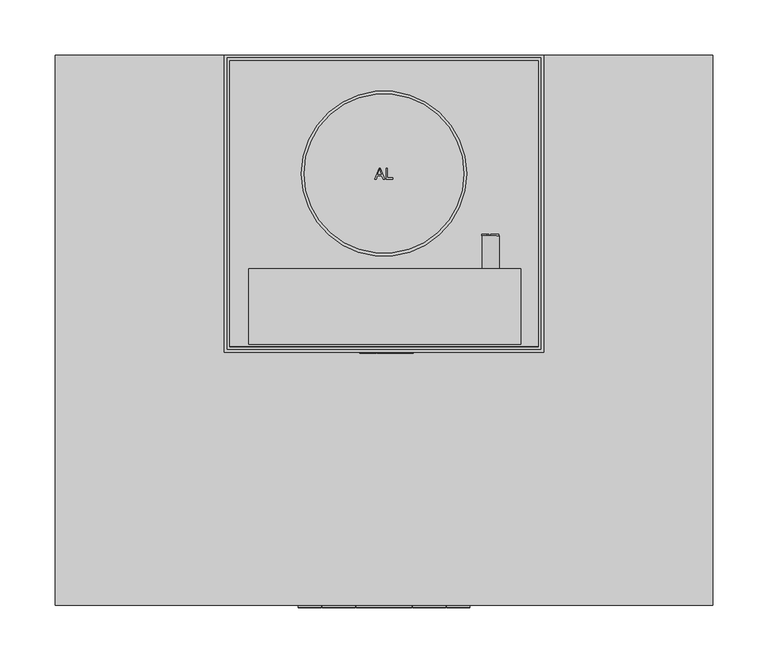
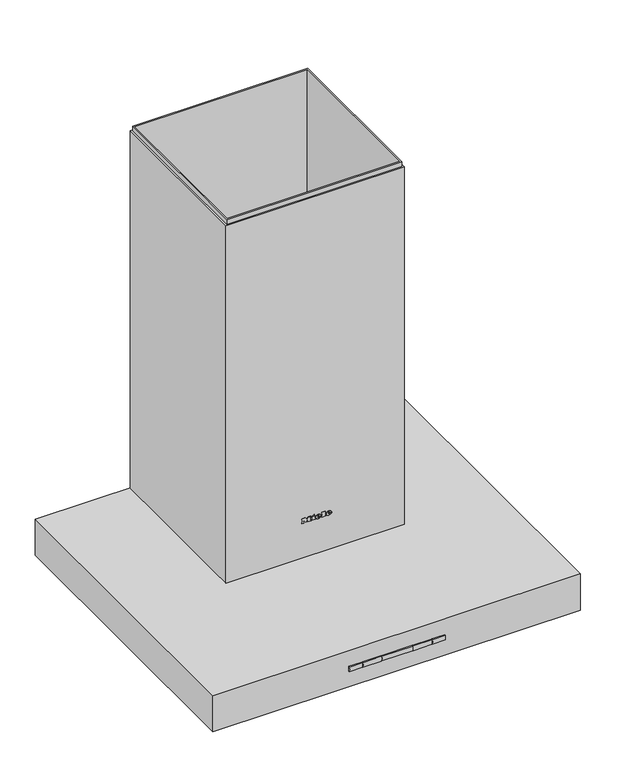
"""IFC4 building model written with IfcOpenShell, lengths in millimetres: proxy geometry, 10351360_D_PUR68W_EDST : 28416854_D_10351360_PUR68W_EDST."""

from ifc_helpers import new_model, si_unit, point, frame, frame_2d, origin, place, context, project, spatial, polyline, circle_curve, ellipse_curve, trimmed, segment, composite_curve, outline, extrude, faceted_brep, source, transform, mapped, element, save
from ifc_brep_helpers import plane_surface, cylinder_surface, revolved_surface, extruded_surface, advanced_brep


def specialty_equipment_d826a3f4(model_context):
    return source(origin(), model_context, "Body", "SolidModel", [
        advanced_brep(
        [(-146.5433287, -435.7, 0.8), (-93.4566713, -435.7, 0.8), (-90.883263, -435.7, 2.0), (-149.116737, -435.7, 2.0), (-120.0, -435.7, 0.8), (-120.0, -435.7, 2.0)],
        [
            (0, 1, circle_curve(frame((-120.0, -435.7, 0.8), z_axis=(0.0, 0.0, 1.0), x_axis=(1.0, 0.0, 0.0)), 26.5433287)),
            (1, 2),
            (2, 3, circle_curve(frame((-120.0, -435.7, 2.0), z_axis=(0.0, 0.0, -1.0), x_axis=(1.0, 0.0, 0.0)), 29.116737)),
            (3, 0),
            (1, 0, circle_curve(frame((-120.0, -435.7, 0.8), z_axis=(0.0, 0.0, 1.0), x_axis=(1.0, 0.0, 0.0)), 26.5433287)),
            (3, 2, circle_curve(frame((-120.0, -435.7, 2.0), z_axis=(0.0, 0.0, -1.0), x_axis=(1.0, 0.0, 0.0)), 29.116737)),
            (0, 4),
            (4, 1),
            (2, 5),
            (5, 3),
        ],
        [
            revolved_surface(polyline([(-90.883263, -435.7, 2.0), (-93.4566713, -435.7, 0.8)]), (-120.0, -435.7, 2240.4), (0.0, 0.0, -1.0)),
            plane_surface(frame((-120.0, -435.7, 0.8), z_axis=(0.0, 0.0, -1.0), x_axis=(1.0, 0.0, 0.0))),
            plane_surface(frame((-120.0, -435.7, 2.0), z_axis=(0.0, 0.0, 1.0), x_axis=(1.0, 0.0, 0.0))),
        ],
        [
            (0, [[1, 2, 3, 4]]),
            (0, [[-2, 5, -4, 6]]),
            (1, [[-1, 7, 8]]),
            (1, [[-5, -8, -7]]),
            (2, [[-3, 9, 10]]),
            (2, [[-6, -10, -9]]),
        ],
    ),
        advanced_brep(
        [(93.4566713, -435.7, 0.8), (146.5433287, -435.7, 0.8), (149.116737, -435.7, 2.0), (90.883263, -435.7, 2.0), (120.0, -435.7, 0.8), (120.0, -435.7, 2.0)],
        [
            (0, 1, circle_curve(frame((120.0, -435.7, 0.8), z_axis=(0.0, 0.0, 1.0), x_axis=(1.0, 0.0, 0.0)), 26.5433287)),
            (1, 2),
            (2, 3, circle_curve(frame((120.0, -435.7, 2.0), z_axis=(0.0, 0.0, -1.0), x_axis=(1.0, 0.0, 0.0)), 29.116737)),
            (3, 0),
            (1, 0, circle_curve(frame((120.0, -435.7, 0.8), z_axis=(0.0, 0.0, 1.0), x_axis=(1.0, 0.0, 0.0)), 26.5433287)),
            (3, 2, circle_curve(frame((120.0, -435.7, 2.0), z_axis=(0.0, 0.0, -1.0), x_axis=(1.0, 0.0, 0.0)), 29.116737)),
            (0, 4),
            (4, 1),
            (2, 5),
            (5, 3),
        ],
        [
            revolved_surface(polyline([(149.116737, -435.7, 2.0), (146.5433287, -435.7, 0.8)]), (120.0, -435.7, 2240.4), (0.0, 0.0, -1.0)),
            plane_surface(frame((120.0, -435.7, 0.8), z_axis=(0.0, 0.0, -1.0), x_axis=(1.0, 0.0, 0.0))),
            plane_surface(frame((120.0, -435.7, 2.0), z_axis=(0.0, 0.0, 1.0), x_axis=(1.0, 0.0, 0.0))),
        ],
        [
            (0, [[1, 2, 3, 4]]),
            (0, [[-2, 5, -4, 6]]),
            (1, [[-1, 7, 8]]),
            (1, [[-5, -8, -7]]),
            (2, [[-3, 9, 10]]),
            (2, [[-6, -10, -9]]),
        ],
    ),
        extrude(outline(polyline([(9.0, -34.0), (271.0, -34.0), (271.0, -391.0), (9.0, -391.0), (9.0, -34.0)])), frame((0.0, 0.0, 6.5), z_axis=(0.0, 0.0, 1.0), x_axis=(1.0, 0.0, 0.0)), (0.0, 0.0, 1.0), 6.0),
        extrude(outline(polyline([(0.0, -25.0), (280.0, -25.0), (280.0, -400.0), (0.0, -400.0), (0.0, -25.0)]), holes=[polyline([(9.0, -34.0), (9.0, -391.0), (271.0, -391.0), (271.0, -34.0), (9.0, -34.0)])]), frame((0.0, 0.0, 5.0), z_axis=(0.0, 0.0, 1.0), x_axis=(1.0, 0.0, 0.0)), (0.0, 0.0, 1.0), 9.0),
        extrude(outline(polyline([(-9.0, -34.0), (-9.0, -391.0), (-271.0, -391.0), (-271.0, -34.0), (-9.0, -34.0)])), frame((0.0, 0.0, 6.5), z_axis=(0.0, 0.0, 1.0), x_axis=(1.0, 0.0, 0.0)), (0.0, 0.0, 1.0), 6.0),
        extrude(outline(polyline([(0.0, -25.0), (0.0, -400.0), (-280.0, -400.0), (-280.0, -25.0), (0.0, -25.0)]), holes=[polyline([(-9.0, -34.0), (-271.0, -34.0), (-271.0, -391.0), (-9.0, -391.0), (-9.0, -34.0)])]), frame((0.0, 0.0, 5.0), z_axis=(0.0, 0.0, 1.0), x_axis=(1.0, 0.0, 0.0)), (0.0, 0.0, 1.0), 9.0),
        extrude(outline(polyline([(123.5, -348.0), (156.5, -348.0), (156.5, -391.0), (123.5, -391.0), (123.5, -348.0)]), holes=[polyline([(130.0, -354.5), (130.0, -363.5), (149.7714328, -363.5), (149.7714328, -354.5), (130.0, -354.5)])]), frame((0.0, 0.0, 5.0), z_axis=(0.0, 0.0, 1.0), x_axis=(1.0, 0.0, 0.0)), (0.0, 0.0, 1.0), 1.5),
        extrude(outline(polyline([(-123.5, -348.0), (-123.5, -391.0), (-156.5, -391.0), (-156.5, -348.0), (-123.5, -348.0)]), holes=[polyline([(-130.0, -354.5), (-150.0, -354.5), (-150.0, -363.5), (-130.0, -363.5), (-130.0, -354.5)])]), frame((0.0, 0.0, 5.0), z_axis=(0.0, 0.0, 1.0), x_axis=(1.0, 0.0, 0.0)), (0.0, 0.0, 1.0), 1.5),
        faceted_brep([(-142.5, -267.5, 685.0), (142.5, -267.5, 685.0), (142.5, -2.5, 685.0), (-142.5, -2.5, 685.0), (140.0, -5.0, 685.0), (140.0, -265.0, 685.0), (-140.0, -265.0, 685.0), (-140.0, -5.0, 685.0), (-142.5, -267.5, 210.0), (-142.5, -2.5, 210.0), (142.5, -2.5, 210.0), (142.5, -267.5, 210.0), (140.0, -5.0, 210.0), (-140.0, -5.0, 210.0), (-140.0, -265.0, 210.0), (140.0, -265.0, 210.0), (-142.5, -247.0, 245.0), (-142.5, -236.4, 245.0), (-142.5, -236.4, 345.0), (-142.5, -247.0, 345.0), (-142.5, -225.8, 245.0), (-142.5, -215.2, 245.0), (-142.5, -215.2, 345.0), (-142.5, -225.8, 345.0), (-142.5, -204.6, 245.0), (-142.5, -194.0, 245.0), (-142.5, -194.0, 345.0), (-142.5, -204.6, 345.0), (-142.5, -183.4, 245.0), (-142.5, -172.8, 245.0), (-142.5, -172.8, 345.0), (-142.5, -183.4, 345.0), (-142.5, -162.2, 245.0), (-142.5, -151.6, 245.0), (-142.5, -151.6, 345.0), (-142.5, -162.2, 345.0), (-142.5, -141.0, 245.0), (-142.5, -129.0, 245.0), (-142.5, -129.0, 345.0), (-142.5, -141.0, 345.0), (-142.5, -118.4, 245.0), (-142.5, -107.8, 245.0), (-142.5, -107.8, 345.0), (-142.5, -118.4, 345.0), (-142.5, -97.2, 245.0), (-142.5, -86.6, 245.0), (-142.5, -86.6, 345.0), (-142.5, -97.2, 345.0), (-142.5, -76.0, 245.0), (-142.5, -65.4, 245.0), (-142.5, -65.4, 345.0), (-142.5, -76.0, 345.0), (-142.5, -54.8, 245.0), (-142.5, -44.2, 245.0), (-142.5, -44.2, 345.0), (-142.5, -54.8, 345.0), (-142.5, -33.6, 245.0), (-142.5, -23.0, 245.0), (-142.5, -23.0, 345.0), (-142.5, -33.6, 345.0), (121.0, -265.0, 245.0), (121.0, -265.0, 345.0), (109.0, -265.0, 345.0), (109.0, -265.0, 245.0), (-121.0, -265.0, 345.0), (-121.0, -265.0, 245.0), (-109.0, -265.0, 245.0), (-109.0, -265.0, 345.0), (-86.0, -265.0, 345.0), (-97.5, -265.0, 345.0), (-97.5, -265.0, 245.0), (-86.0, -265.0, 245.0), (-63.0, -265.0, 345.0), (-74.5, -265.0, 345.0), (-74.5, -265.0, 245.0), (-63.0, -265.0, 245.0), (-40.0, -265.0, 345.0), (-51.5, -265.0, 345.0), (-51.5, -265.0, 245.0), (-40.0, -265.0, 245.0), (-17.0, -265.0, 345.0), (-28.5, -265.0, 345.0), (-28.5, -265.0, 245.0), (-17.0, -265.0, 245.0), (5.5, -265.0, 345.0), (-5.5, -265.0, 345.0), (-5.5, -265.0, 245.0), (5.5, -265.0, 245.0), (28.5, -265.0, 345.0), (17.0, -265.0, 345.0), (17.0, -265.0, 245.0), (28.5, -265.0, 245.0), (51.5, -265.0, 345.0), (40.0, -265.0, 345.0), (40.0, -265.0, 245.0), (51.5, -265.0, 245.0), (74.5, -265.0, 345.0), (63.0, -265.0, 345.0), (63.0, -265.0, 245.0), (74.5, -265.0, 245.0), (97.5, -265.0, 345.0), (86.0, -265.0, 345.0), (86.0, -265.0, 245.0), (97.5, -265.0, 245.0), (-140.0, -236.4, 245.0), (-140.0, -247.0, 245.0), (-140.0, -247.0, 345.0), (-140.0, -236.4, 345.0), (-140.0, -215.2, 245.0), (-140.0, -225.8, 245.0), (-140.0, -225.8, 345.0), (-140.0, -215.2, 345.0), (-140.0, -194.0, 245.0), (-140.0, -204.6, 245.0), (-140.0, -204.6, 345.0), (-140.0, -194.0, 345.0), (-140.0, -172.8, 245.0), (-140.0, -183.4, 245.0), (-140.0, -183.4, 345.0), (-140.0, -172.8, 345.0), (-140.0, -151.6, 245.0), (-140.0, -162.2, 245.0), (-140.0, -162.2, 345.0), (-140.0, -151.6, 345.0), (-140.0, -129.0, 245.0), (-140.0, -141.0, 245.0), (-140.0, -141.0, 345.0), (-140.0, -129.0, 345.0), (-140.0, -107.8, 245.0), (-140.0, -118.4, 245.0), (-140.0, -118.4, 345.0), (-140.0, -107.8, 345.0), (-140.0, -86.6, 245.0), (-140.0, -97.2, 245.0), (-140.0, -97.2, 345.0), (-140.0, -86.6, 345.0), (-140.0, -65.4, 245.0), (-140.0, -76.0, 245.0), (-140.0, -76.0, 345.0), (-140.0, -65.4, 345.0), (-140.0, -44.2, 245.0), (-140.0, -54.8, 245.0), (-140.0, -54.8, 345.0), (-140.0, -44.2, 345.0), (-140.0, -23.0, 245.0), (-140.0, -33.6, 245.0), (-140.0, -33.6, 345.0), (-140.0, -23.0, 345.0), (140.0, -247.0, 345.0), (140.0, -247.0, 245.0), (140.0, -236.4, 245.0), (140.0, -236.4, 345.0), (140.0, -23.0, 245.0), (140.0, -23.0, 345.0), (140.0, -33.6, 345.0), (140.0, -33.6, 245.0), (140.0, -225.8, 345.0), (140.0, -225.8, 245.0), (140.0, -215.2, 245.0), (140.0, -215.2, 345.0), (140.0, -204.6, 345.0), (140.0, -204.6, 245.0), (140.0, -194.0, 245.0), (140.0, -194.0, 345.0), (140.0, -183.4, 345.0), (140.0, -183.4, 245.0), (140.0, -172.8, 245.0), (140.0, -172.8, 345.0), (140.0, -162.2, 345.0), (140.0, -162.2, 245.0), (140.0, -151.6, 245.0), (140.0, -151.6, 345.0), (140.0, -44.2, 245.0), (140.0, -44.2, 345.0), (140.0, -54.8, 345.0), (140.0, -54.8, 245.0), (140.0, -65.4, 245.0), (140.0, -65.4, 345.0), (140.0, -76.0, 345.0), (140.0, -76.0, 245.0), (140.0, -86.6, 245.0), (140.0, -86.6, 345.0), (140.0, -97.2, 345.0), (140.0, -97.2, 245.0), (140.0, -107.8, 245.0), (140.0, -107.8, 345.0), (140.0, -118.4, 345.0), (140.0, -118.4, 245.0), (140.0, -129.0, 245.0), (140.0, -129.0, 345.0), (140.0, -141.0, 345.0), (140.0, -141.0, 245.0), (142.5, -23.0, 345.0), (142.5, -23.0, 245.0), (142.5, -33.6, 245.0), (142.5, -33.6, 345.0), (142.5, -247.0, 245.0), (142.5, -247.0, 345.0), (142.5, -236.4, 345.0), (142.5, -236.4, 245.0), (142.5, -225.8, 245.0), (142.5, -225.8, 345.0), (142.5, -215.2, 345.0), (142.5, -215.2, 245.0), (142.5, -204.6, 245.0), (142.5, -204.6, 345.0), (142.5, -194.0, 345.0), (142.5, -194.0, 245.0), (142.5, -183.4, 245.0), (142.5, -183.4, 345.0), (142.5, -172.8, 345.0), (142.5, -172.8, 245.0), (142.5, -162.2, 245.0), (142.5, -162.2, 345.0), (142.5, -151.6, 345.0), (142.5, -151.6, 245.0), (142.5, -44.2, 345.0), (142.5, -44.2, 245.0), (142.5, -54.8, 245.0), (142.5, -54.8, 345.0), (142.5, -65.4, 345.0), (142.5, -65.4, 245.0), (142.5, -76.0, 245.0), (142.5, -76.0, 345.0), (142.5, -86.6, 345.0), (142.5, -86.6, 245.0), (142.5, -97.2, 245.0), (142.5, -97.2, 345.0), (142.5, -107.8, 345.0), (142.5, -107.8, 245.0), (142.5, -118.4, 245.0), (142.5, -118.4, 345.0), (142.5, -129.0, 345.0), (142.5, -129.0, 245.0), (142.5, -141.0, 245.0), (142.5, -141.0, 345.0), (121.0, -267.5, 345.0), (121.0, -267.5, 245.0), (109.0, -267.5, 245.0), (109.0, -267.5, 345.0), (-121.0, -267.5, 245.0), (-121.0, -267.5, 345.0), (-109.0, -267.5, 345.0), (-109.0, -267.5, 245.0), (-97.5, -267.5, 345.0), (-86.0, -267.5, 345.0), (-86.0, -267.5, 245.0), (-97.5, -267.5, 245.0), (-74.5, -267.5, 345.0), (-63.0, -267.5, 345.0), (-63.0, -267.5, 245.0), (-74.5, -267.5, 245.0), (-51.5, -267.5, 345.0), (-40.0, -267.5, 345.0), (-40.0, -267.5, 245.0), (-51.5, -267.5, 245.0), (-28.5, -267.5, 345.0), (-17.0, -267.5, 345.0), (-17.0, -267.5, 245.0), (-28.5, -267.5, 245.0), (-5.5, -267.5, 345.0), (5.5, -267.5, 345.0), (5.5, -267.5, 245.0), (-5.5, -267.5, 245.0), (17.0, -267.5, 345.0), (28.5, -267.5, 345.0), (28.5, -267.5, 245.0), (17.0, -267.5, 245.0), (40.0, -267.5, 345.0), (51.5, -267.5, 345.0), (51.5, -267.5, 245.0), (40.0, -267.5, 245.0), (63.0, -267.5, 345.0), (74.5, -267.5, 345.0), (74.5, -267.5, 245.0), (63.0, -267.5, 245.0), (86.0, -267.5, 345.0), (97.5, -267.5, 345.0), (97.5, -267.5, 245.0), (86.0, -267.5, 245.0)], [[[0, 1, 2, 3], [4, 5, 6, 7]], [[8, 9, 10, 11], [12, 13, 14, 15]], [[0, 3, 9, 8], [16, 17, 18, 19], [20, 21, 22, 23], [24, 25, 26, 27], [28, 29, 30, 31], [32, 33, 34, 35], [36, 37, 38, 39], [40, 41, 42, 43], [44, 45, 46, 47], [48, 49, 50, 51], [52, 53, 54, 55], [56, 57, 58, 59]], [[6, 5, 15, 14], [60, 61, 62, 63], [64, 65, 66, 67], [68, 69, 70, 71], [72, 73, 74, 75], [76, 77, 78, 79], [80, 81, 82, 83], [84, 85, 86, 87], [88, 89, 90, 91], [92, 93, 94, 95], [96, 97, 98, 99], [100, 101, 102, 103]], [[7, 6, 14, 13], [104, 105, 106, 107], [108, 109, 110, 111], [112, 113, 114, 115], [116, 117, 118, 119], [120, 121, 122, 123], [124, 125, 126, 127], [128, 129, 130, 131], [132, 133, 134, 135], [136, 137, 138, 139], [140, 141, 142, 143], [144, 145, 146, 147]], [[5, 4, 12, 15], [148, 149, 150, 151], [152, 153, 154, 155], [156, 157, 158, 159], [160, 161, 162, 163], [164, 165, 166, 167], [168, 169, 170, 171], [172, 173, 174, 175], [176, 177, 178, 179], [180, 181, 182, 183], [184, 185, 186, 187], [188, 189, 190, 191]], [[2, 1, 11, 10], [192, 193, 194, 195], [196, 197, 198, 199], [200, 201, 202, 203], [204, 205, 206, 207], [208, 209, 210, 211], [212, 213, 214, 215], [216, 217, 218, 219], [220, 221, 222, 223], [224, 225, 226, 227], [228, 229, 230, 231], [232, 233, 234, 235]], [[1, 0, 8, 11], [236, 237, 238, 239], [240, 241, 242, 243], [244, 245, 246, 247], [248, 249, 250, 251], [252, 253, 254, 255], [256, 257, 258, 259], [260, 261, 262, 263], [264, 265, 266, 267], [268, 269, 270, 271], [272, 273, 274, 275], [276, 277, 278, 279]], [[3, 2, 10, 9]], [[4, 7, 13, 12]], [[60, 237, 236, 61]], [[64, 241, 240, 65]], [[196, 149, 148, 197]], [[192, 153, 152, 193]], [[149, 196, 199, 150]], [[150, 199, 198, 151]], [[197, 148, 151, 198]], [[153, 192, 195, 154]], [[154, 195, 194, 155]], [[193, 152, 155, 194]], [[200, 157, 156, 201]], [[157, 200, 203, 158]], [[158, 203, 202, 159]], [[201, 156, 159, 202]], [[204, 161, 160, 205]], [[161, 204, 207, 162]], [[162, 207, 206, 163]], [[205, 160, 163, 206]], [[208, 165, 164, 209]], [[165, 208, 211, 166]], [[166, 211, 210, 167]], [[209, 164, 167, 210]], [[212, 169, 168, 213]], [[169, 212, 215, 170]], [[170, 215, 214, 171]], [[213, 168, 171, 214]], [[216, 173, 172, 217]], [[173, 216, 219, 174]], [[174, 219, 218, 175]], [[217, 172, 175, 218]], [[220, 177, 176, 221]], [[177, 220, 223, 178]], [[178, 223, 222, 179]], [[221, 176, 179, 222]], [[224, 181, 180, 225]], [[181, 224, 227, 182]], [[182, 227, 226, 183]], [[225, 180, 183, 226]], [[228, 185, 184, 229]], [[185, 228, 231, 186]], [[186, 231, 230, 187]], [[229, 184, 187, 230]], [[232, 189, 188, 233]], [[189, 232, 235, 190]], [[190, 235, 234, 191]], [[233, 188, 191, 234]], [[104, 17, 16, 105]], [[17, 104, 107, 18]], [[18, 107, 106, 19]], [[105, 16, 19, 106]], [[108, 21, 20, 109]], [[21, 108, 111, 22]], [[22, 111, 110, 23]], [[109, 20, 23, 110]], [[112, 25, 24, 113]], [[25, 112, 115, 26]], [[26, 115, 114, 27]], [[113, 24, 27, 114]], [[116, 29, 28, 117]], [[29, 116, 119, 30]], [[30, 119, 118, 31]], [[117, 28, 31, 118]], [[120, 33, 32, 121]], [[33, 120, 123, 34]], [[34, 123, 122, 35]], [[121, 32, 35, 122]], [[124, 37, 36, 125]], [[37, 124, 127, 38]], [[38, 127, 126, 39]], [[125, 36, 39, 126]], [[128, 41, 40, 129]], [[41, 128, 131, 42]], [[42, 131, 130, 43]], [[129, 40, 43, 130]], [[132, 45, 44, 133]], [[45, 132, 135, 46]], [[46, 135, 134, 47]], [[133, 44, 47, 134]], [[136, 49, 48, 137]], [[49, 136, 139, 50]], [[50, 139, 138, 51]], [[137, 48, 51, 138]], [[140, 53, 52, 141]], [[53, 140, 143, 54]], [[54, 143, 142, 55]], [[141, 52, 55, 142]], [[144, 57, 56, 145]], [[57, 144, 147, 58]], [[58, 147, 146, 59]], [[145, 56, 59, 146]], [[241, 64, 67, 242]], [[242, 67, 66, 243]], [[65, 240, 243, 66]], [[237, 60, 63, 238]], [[238, 63, 62, 239]], [[61, 236, 239, 62]], [[68, 245, 244, 69]], [[245, 68, 71, 246]], [[246, 71, 70, 247]], [[69, 244, 247, 70]], [[72, 249, 248, 73]], [[249, 72, 75, 250]], [[250, 75, 74, 251]], [[73, 248, 251, 74]], [[76, 253, 252, 77]], [[253, 76, 79, 254]], [[254, 79, 78, 255]], [[77, 252, 255, 78]], [[80, 257, 256, 81]], [[257, 80, 83, 258]], [[258, 83, 82, 259]], [[81, 256, 259, 82]], [[84, 261, 260, 85]], [[261, 84, 87, 262]], [[262, 87, 86, 263]], [[85, 260, 263, 86]], [[88, 265, 264, 89]], [[265, 88, 91, 266]], [[266, 91, 90, 267]], [[89, 264, 267, 90]], [[92, 269, 268, 93]], [[269, 92, 95, 270]], [[270, 95, 94, 271]], [[93, 268, 271, 94]], [[96, 273, 272, 97]], [[273, 96, 99, 274]], [[274, 99, 98, 275]], [[97, 272, 275, 98]], [[100, 277, 276, 101]], [[277, 100, 103, 278]], [[278, 103, 102, 279]], [[101, 276, 279, 102]]]),
        extrude(outline(polyline([(145.0, 0.0), (145.0, -270.0), (-145.0, -270.0), (-145.0, 0.0), (145.0, 0.0)]), holes=[polyline([(-142.5, -2.5), (-142.5, -267.5), (142.5, -267.5), (142.5, -2.5), (-142.5, -2.5)])]), frame((0.0, 0.0, 62.0), z_axis=(0.0, 0.0, 1.0), x_axis=(1.0, 0.0, 0.0)), (0.0, 0.0, 1.0), 615.0),
        advanced_brep(
        [(21.104, -271.0, 123.896), (21.104, -271.0, 124.704), (26.456, -271.0, 124.704), (17.144, -271.0, 124.704), (19.344, -271.0, 122.0), (26.32, -271.0, 123.896), (23.904, -271.0, 123.896), (22.0, -271.0, 123.0), (21.104, -271.0, 125.728), (21.104, -271.0, 126.6), (22.472, -271.0, 126.6), (22.472, -271.0, 125.728), (21.104, -270.0, 123.896), (22.0, -270.0, 123.0), (23.904, -270.0, 123.896), (26.32, -270.0, 123.896), (19.344, -270.0, 122.0), (17.144, -270.0, 124.704), (26.456, -270.0, 124.704), (21.104, -270.0, 124.704), (21.104, -270.0, 125.728), (22.472, -270.0, 125.728), (22.472, -270.0, 126.6), (21.104, -270.0, 126.6)],
        [
            (0, 1),
            (1, 2),
            (2, 3, ellipse_curve(frame((21.8, -271.0, 124.704), z_axis=(0.0, -1.0, -1.2192856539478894e-11), x_axis=(-1.0, 0.0, 0.0)), 4.656, 3.848)),
            (3, 4, circle_curve(frame((20.2400436, -271.0, 124.976), z_axis=(0.0, -1.0, -1.2192856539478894e-11), x_axis=(0.0, 1.2192856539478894e-11, -1.0)), 3.1079688)),
            (4, 5, circle_curve(frame((21.7067936, -271.0, 127.088), z_axis=(0.0, -1.0, -1.2192856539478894e-11), x_axis=(0.0, 1.2192856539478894e-11, -1.0)), 5.6098607)),
            (5, 6),
            (6, 7, circle_curve(frame((22.3910588, -271.0, 124.64), z_axis=(0.0, 1.0, 1.2192856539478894e-11), x_axis=(0.0, 1.2192856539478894e-11, -1.0)), 1.6859795)),
            (7, 0, circle_curve(frame((22.0, -271.0, 123.896), z_axis=(0.0, 1.0, 1.2192856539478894e-11), x_axis=(0.0, 1.2192856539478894e-11, -1.0)), 0.896)),
            (8, 9),
            (9, 10, circle_curve(frame((21.788, -271.0, 126.6), z_axis=(0.0, 1.0, 1.2192856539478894e-11), x_axis=(0.0, 1.2192856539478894e-11, -1.0)), 0.684)),
            (10, 11),
            (11, 8),
            (12, 13, circle_curve(frame((22.0, -270.0, 123.896), z_axis=(0.0, -1.0, -1.2192856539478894e-11), x_axis=(0.0, 1.2192856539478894e-11, -1.0)), 0.896)),
            (13, 14, circle_curve(frame((22.3910588, -270.0, 124.64), z_axis=(0.0, -1.0, -1.2192856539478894e-11), x_axis=(0.0, 1.2192856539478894e-11, -1.0)), 1.6859795)),
            (14, 15),
            (15, 16, circle_curve(frame((21.7067936, -270.0, 127.088), z_axis=(0.0, 1.0, 1.2192856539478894e-11), x_axis=(0.0, 1.2192856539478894e-11, -1.0)), 5.6098607)),
            (16, 17, circle_curve(frame((20.2400436, -270.0, 124.976), z_axis=(0.0, 1.0, 1.2192856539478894e-11), x_axis=(0.0, 1.2192856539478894e-11, -1.0)), 3.1079688)),
            (17, 18, ellipse_curve(frame((21.8, -270.0, 124.704), z_axis=(0.0, 1.0, 1.2192856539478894e-11), x_axis=(-1.0, 0.0, 0.0)), 4.656, 3.848)),
            (18, 19),
            (19, 12),
            (20, 21),
            (21, 22),
            (22, 23, circle_curve(frame((21.788, -270.0, 126.6), z_axis=(0.0, -1.0, -1.2192856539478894e-11), x_axis=(0.0, 1.2192856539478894e-11, -1.0)), 0.684)),
            (23, 20),
            (0, 12),
            (19, 1),
            (18, 2),
            (5, 15),
            (14, 6),
            (17, 3),
            (13, 7),
            (16, 4),
            (8, 20),
            (23, 9),
            (22, 10),
            (21, 11),
        ],
        [
            plane_surface(frame((21.104, -271.0, 124.704), z_axis=(0.0, -1.0, -1.2192856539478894e-11), x_axis=(0.0, -1.2192856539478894e-11, 1.0))),
            plane_surface(frame((21.104, -270.0, 124.704), z_axis=(0.0, 1.0, 1.2192856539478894e-11), x_axis=(0.0, 1.2192856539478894e-11, -1.0))),
            plane_surface(frame((21.104, -271.0, 123.896), z_axis=(1.0, 0.0, 0.0), x_axis=(0.0, 1.0, 1.2192856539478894e-11))),
            plane_surface(frame((21.104, -271.0, 124.704), z_axis=(0.0, 1.2192856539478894e-11, -1.0), x_axis=(0.0, 1.0, 1.2192856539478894e-11))),
            plane_surface(frame((26.32, -271.0, 123.896), z_axis=(0.0, -1.2192856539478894e-11, 1.0), x_axis=(0.0, 1.0, 1.2192856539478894e-11))),
            extruded_surface(trimmed(ellipse_curve(frame((21.8, -269.0, 124.704), z_axis=(0.0, -1.0, -1.2192856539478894e-11), x_axis=(-1.0, 0.0, 0.0)), 4.656, 3.848), [point((26.456, -269.0, 124.704))], [point((17.144, -269.0, 124.704))], True, "CARTESIAN"), (0.0, -1.0, 0.0), 1.0),
            revolved_surface(polyline([(22.3910588, -269.9999999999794, 122.9540205), (22.3910588, -270.99999999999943, 122.9540204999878)]), (22.3910588, -270.0, 124.64), (0.0, 1.0, 1.2192856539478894e-11)),
            revolved_surface(polyline([(22.0, -269.9999999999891, 123.0), (22.0, -271.0, 122.9999999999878)]), (22.0, -270.0, 123.896), (0.0, 1.0, 1.2192856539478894e-11)),
            cylinder_surface(frame((20.2400436, -270.0, 124.976), z_axis=(0.0, -1.0, -1.2192856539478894e-11), x_axis=(0.0, 1.2192856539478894e-11, -1.0)), 3.1079688),
            cylinder_surface(frame((21.7067936, -270.0, 127.088), z_axis=(0.0, -1.0, -1.2192856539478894e-11), x_axis=(0.0, 1.2192856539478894e-11, -1.0)), 5.6098607),
            plane_surface(frame((21.104, -271.0, 125.728), z_axis=(1.0, 0.0, 0.0), x_axis=(0.0, 1.0, 1.2192856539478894e-11))),
            revolved_surface(polyline([(21.788, -269.99999999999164, 125.916), (21.788, -270.99999999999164, 125.9159999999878)]), (21.788, -270.0, 126.6), (0.0, 1.0, 1.2192856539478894e-11)),
            plane_surface(frame((22.472, -271.0, 126.6), z_axis=(-1.0, 0.0, 0.0), x_axis=(0.0, 1.0, 1.2192856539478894e-11))),
            plane_surface(frame((22.472, -271.0, 125.728), z_axis=(0.0, -1.2192856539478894e-11, 1.0), x_axis=(0.0, 1.0, 1.2192856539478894e-11))),
        ],
        [
            (0, [[1, 2, 3, 4, 5, 6, 7, 8], [9, 10, 11, 12]]),
            (1, [[13, 14, 15, 16, 17, 18, 19, 20], [21, 22, 23, 24]]),
            (2, [[-1, 25, -20, 26]]),
            (3, [[-2, -26, -19, 27]]),
            (4, [[-6, 28, -15, 29]]),
            (5, [[-3, -27, -18, 30]]),
            (6, [[-7, -29, -14, 31]]),
            (7, [[-8, -31, -13, -25]]),
            (8, [[-4, -30, -17, 32]]),
            (9, [[-5, -32, -16, -28]]),
            (10, [[-9, 33, -24, 34]]),
            (11, [[-10, -34, -23, 35]]),
            (12, [[-11, -35, -22, 36]]),
            (13, [[-12, -36, -21, -33]]),
        ],
    ),
        advanced_brep(
        [(4.408, -271.0, 123.896), (4.408, -271.0, 124.704), (9.76, -271.0, 124.704), (0.448, -271.0, 124.704), (2.648, -271.0, 122.0), (9.624, -271.0, 123.896), (7.208, -271.0, 123.896), (5.304, -271.0, 123.0), (4.408, -271.0, 125.728), (4.408, -271.0, 126.6), (5.776, -271.0, 126.6), (5.776, -271.0, 125.728), (4.408, -270.0, 123.896), (5.304, -270.0, 123.0), (7.208, -270.0, 123.896), (9.624, -270.0, 123.896), (2.648, -270.0, 122.0), (0.448, -270.0, 124.704), (9.76, -270.0, 124.704), (4.408, -270.0, 124.704), (4.408, -270.0, 125.728), (5.776, -270.0, 125.728), (5.776, -270.0, 126.6), (4.408, -270.0, 126.6)],
        [
            (0, 1),
            (1, 2),
            (2, 3, ellipse_curve(frame((5.104, -271.0, 124.704), z_axis=(0.0, -1.0, -1.2192856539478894e-11), x_axis=(-1.0, 0.0, 0.0)), 4.656, 3.848)),
            (3, 4, circle_curve(frame((3.5440436, -271.0, 124.976), z_axis=(0.0, -1.0, -1.2192856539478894e-11), x_axis=(0.0, 1.2192856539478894e-11, -1.0)), 3.1079688)),
            (4, 5, circle_curve(frame((5.0107936, -271.0, 127.088), z_axis=(0.0, -1.0, -1.2192856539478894e-11), x_axis=(0.0, 1.2192856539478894e-11, -1.0)), 5.6098607)),
            (5, 6),
            (6, 7, circle_curve(frame((5.6950588, -271.0, 124.64), z_axis=(0.0, 1.0, 1.2192856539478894e-11), x_axis=(0.0, 1.2192856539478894e-11, -1.0)), 1.6859795)),
            (7, 0, circle_curve(frame((5.304, -271.0, 123.896), z_axis=(0.0, 1.0, 1.2192856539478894e-11), x_axis=(0.0, 1.2192856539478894e-11, -1.0)), 0.896)),
            (8, 9),
            (9, 10, circle_curve(frame((5.092, -271.0, 126.6), z_axis=(0.0, 1.0, 1.2192856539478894e-11), x_axis=(0.0, 1.2192856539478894e-11, -1.0)), 0.684)),
            (10, 11),
            (11, 8),
            (12, 13, circle_curve(frame((5.304, -270.0, 123.896), z_axis=(0.0, -1.0, -1.2192856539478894e-11), x_axis=(0.0, 1.2192856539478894e-11, -1.0)), 0.896)),
            (13, 14, circle_curve(frame((5.6950588, -270.0, 124.64), z_axis=(0.0, -1.0, -1.2192856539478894e-11), x_axis=(0.0, 1.2192856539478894e-11, -1.0)), 1.6859795)),
            (14, 15),
            (15, 16, circle_curve(frame((5.0107936, -270.0, 127.088), z_axis=(0.0, 1.0, 1.2192856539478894e-11), x_axis=(0.0, 1.2192856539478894e-11, -1.0)), 5.6098607)),
            (16, 17, circle_curve(frame((3.5440436, -270.0, 124.976), z_axis=(0.0, 1.0, 1.2192856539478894e-11), x_axis=(0.0, 1.2192856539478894e-11, -1.0)), 3.1079688)),
            (17, 18, ellipse_curve(frame((5.104, -270.0, 124.704), z_axis=(0.0, 1.0, 1.2192856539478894e-11), x_axis=(-1.0, 0.0, 0.0)), 4.656, 3.848)),
            (18, 19),
            (19, 12),
            (20, 21),
            (21, 22),
            (22, 23, circle_curve(frame((5.092, -270.0, 126.6), z_axis=(0.0, -1.0, -1.2192856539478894e-11), x_axis=(0.0, 1.2192856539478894e-11, -1.0)), 0.684)),
            (23, 20),
            (0, 12),
            (19, 1),
            (18, 2),
            (5, 15),
            (14, 6),
            (17, 3),
            (13, 7),
            (16, 4),
            (8, 20),
            (23, 9),
            (22, 10),
            (21, 11),
        ],
        [
            plane_surface(frame((4.408, -271.0, 124.704), z_axis=(0.0, -1.0, -1.2192856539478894e-11), x_axis=(0.0, -1.2192856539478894e-11, 1.0))),
            plane_surface(frame((4.408, -270.0, 124.704), z_axis=(0.0, 1.0, 1.2192856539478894e-11), x_axis=(0.0, 1.2192856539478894e-11, -1.0))),
            plane_surface(frame((4.408, -271.0, 123.896), z_axis=(1.0, 0.0, 0.0), x_axis=(0.0, 1.0, 1.2192856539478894e-11))),
            plane_surface(frame((4.408, -271.0, 124.704), z_axis=(0.0, 1.2192856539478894e-11, -1.0), x_axis=(0.0, 1.0, 1.2192856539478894e-11))),
            plane_surface(frame((9.624, -271.0, 123.896), z_axis=(0.0, -1.2192856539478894e-11, 1.0), x_axis=(0.0, 1.0, 1.2192856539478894e-11))),
            extruded_surface(trimmed(ellipse_curve(frame((5.104, -269.0, 124.704), z_axis=(0.0, -1.0, -1.2192856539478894e-11), x_axis=(-1.0, 0.0, 0.0)), 4.656, 3.848), [point((9.76, -269.0, 124.704))], [point((0.448, -269.0, 124.704))], True, "CARTESIAN"), (0.0, -1.0, 0.0), 1.0),
            revolved_surface(polyline([(5.6950588, -269.9999999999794, 122.9540205), (5.6950588, -270.99999999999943, 122.9540204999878)]), (5.6950588, -270.0, 124.64), (0.0, 1.0, 1.2192856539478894e-11)),
            revolved_surface(polyline([(5.304, -269.9999999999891, 123.0), (5.304, -271.0, 122.9999999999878)]), (5.304, -270.0, 123.896), (0.0, 1.0, 1.2192856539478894e-11)),
            cylinder_surface(frame((3.5440436, -270.0, 124.976), z_axis=(0.0, -1.0, -1.2192856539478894e-11), x_axis=(0.0, 1.2192856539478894e-11, -1.0)), 3.1079688),
            cylinder_surface(frame((5.0107936, -270.0, 127.088), z_axis=(0.0, -1.0, -1.2192856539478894e-11), x_axis=(0.0, 1.2192856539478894e-11, -1.0)), 5.6098607),
            plane_surface(frame((4.408, -271.0, 125.728), z_axis=(1.0, 0.0, 0.0), x_axis=(0.0, 1.0, 1.2192856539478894e-11))),
            revolved_surface(polyline([(5.092, -269.99999999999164, 125.916), (5.092, -270.99999999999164, 125.9159999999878)]), (5.092, -270.0, 126.6), (0.0, 1.0, 1.2192856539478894e-11)),
            plane_surface(frame((5.776, -271.0, 126.6), z_axis=(-1.0, 0.0, 0.0), x_axis=(0.0, 1.0, 1.2192856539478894e-11))),
            plane_surface(frame((5.776, -271.0, 125.728), z_axis=(0.0, -1.2192856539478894e-11, 1.0), x_axis=(0.0, 1.0, 1.2192856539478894e-11))),
        ],
        [
            (0, [[1, 2, 3, 4, 5, 6, 7, 8], [9, 10, 11, 12]]),
            (1, [[13, 14, 15, 16, 17, 18, 19, 20], [21, 22, 23, 24]]),
            (2, [[-1, 25, -20, 26]]),
            (3, [[-2, -26, -19, 27]]),
            (4, [[-6, 28, -15, 29]]),
            (5, [[-3, -27, -18, 30]]),
            (6, [[-7, -29, -14, 31]]),
            (7, [[-8, -31, -13, -25]]),
            (8, [[-4, -30, -17, 32]]),
            (9, [[-5, -32, -16, -28]]),
            (10, [[-9, 33, -24, 34]]),
            (11, [[-10, -34, -23, 35]]),
            (12, [[-11, -35, -22, 36]]),
            (13, [[-12, -36, -21, -33]]),
        ],
    ),
        extrude(outline(polyline([(0.0, 0.0), (1.4315306, 0.0), (1.4390415, -2.9920868), (0.0109086, -2.9993294), (0.0, 0.0)])), frame((-4.336, -271.0, 129.528), z_axis=(0.0, 1.0, 1.2192856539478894e-11), x_axis=(0.42472021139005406, 1.1041186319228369e-11, -0.9053246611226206)), (0.0, 0.0, 1.0), 1.0),
        extrude(outline(polyline([(0.4933908, 2.4141097), (1.7898157, 3.022309), (2.1941493, 2.1604399), (5.1636142, 3.5535222), (4.7592806, 4.4153913), (5.9760369, 4.9862153), (8.6568709, -0.728194), (7.4401145, -1.2990179), (7.0459742, -0.4588767), (2.7800844, -2.4601583), (0.4933908, 2.4141097)])), frame((-4.336, -271.0, 129.528), z_axis=(0.0, 1.0, 1.2192856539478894e-11), x_axis=(0.42472021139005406, 1.1041186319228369e-11, -0.9053246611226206)), (0.0, 0.0, 1.0), 1.0),
        extrude(outline(polyline([(0.0, 0.0), (0.96, 0.0), (0.96, 5.352), (0.0, 5.352), (0.0, 6.696), (6.488, 6.696), (6.488, 5.352), (5.504, 5.352), (5.504, -1.304), (0.0, -1.304), (0.0, 0.0)])), frame((10.208, -271.0, 128.696), z_axis=(0.0, 1.0, 1.2192856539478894e-11), x_axis=(1.0, 0.0, 0.0)), (0.0, 0.0, 1.0), 1.0),
        extrude(outline(polyline([(0.0, 0.0), (0.968, 0.0), (0.968, 5.352), (0.0, 5.352), (0.0, 6.696), (3.52, 6.696), (3.52, 5.352), (2.56, 5.352), (2.56, 1.9488753), (6.136, 6.696), (9.728, 1.8807777), (9.728, 5.352), (8.744, 5.352), (8.744, 6.696), (15.128, 6.696), (15.128, 5.352), (14.112, 5.352), (14.112, 0.0), (15.128, 0.0), (15.128, -1.304), (10.256, -1.304), (7.92, 1.696), (5.576, -1.304), (0.0, -1.304), (0.0, 0.0)])), frame((-22.256, -271.0, 128.696), z_axis=(0.0, 1.0, 1.2192856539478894e-11), x_axis=(1.0, 0.0, 0.0)), (0.0, 0.0, 1.0), 1.0),
        extrude(outline(composite_curve([segment(polyline([(-500.0, 27.0), (-501.8150871, 27.0)]), True, "CONTINUOUS"), segment(trimmed(circle_curve(frame_2d((-482.0150871, 31.0)), 20.2), [point((-501.8150871, 27.0))], [point((-501.8150871, 35.0))], False, "CARTESIAN"), True, "CONTINUOUS"), segment(polyline([(-501.8150871, 35.0), (-500.0, 35.0), (-500.0, 27.0)]), True, "CONTINUOUS")], self_intersect=False)), frame((57.0, 0.0, 0.0), z_axis=(1.0, 0.0, 0.0), x_axis=(0.0, 1.0, 0.0)), (0.0, 0.0, 1.0), 21.0),
        extrude(outline(composite_curve([segment(trimmed(circle_curve(frame_2d((-482.0150871, 31.0)), 20.2), [point((-501.8150871, 27.0))], [point((-501.8150871, 35.0))], False, "CARTESIAN"), True, "CONTINUOUS"), segment(polyline([(-501.8150871, 35.0), (-500.0, 35.0), (-500.0, 27.0), (-501.8150871, 27.0)]), True, "CONTINUOUS")], self_intersect=False)), frame((-78.0, 0.0, 0.0), z_axis=(1.0, 0.0, 0.0), x_axis=(0.0, 1.0, 0.0)), (0.0, 0.0, 1.0), 21.0),
        extrude(outline(composite_curve([segment(polyline([(-500.0, 27.0), (-501.8150871, 27.0)]), True, "CONTINUOUS"), segment(trimmed(circle_curve(frame_2d((-482.0150871, 31.0)), 20.2), [point((-501.8150871, 27.0))], [point((-501.8150871, 35.0))], False, "CARTESIAN"), True, "CONTINUOUS"), segment(polyline([(-501.8150871, 35.0), (-500.0, 35.0), (-500.0, 27.0)]), True, "CONTINUOUS")], self_intersect=False)), frame((-56.0, 0.0, 0.0), z_axis=(1.0, 0.0, 0.0), x_axis=(0.0, 1.0, 0.0)), (0.0, 0.0, 1.0), 30.0),
        extrude(outline(composite_curve([segment(polyline([(-500.0, 27.0), (-501.8150871, 27.0)]), True, "CONTINUOUS"), segment(trimmed(circle_curve(frame_2d((-482.0150871, 31.0)), 20.2), [point((-501.8150871, 27.0))], [point((-501.8150871, 35.0))], False, "CARTESIAN"), True, "CONTINUOUS"), segment(polyline([(-501.8150871, 35.0), (-500.0, 35.0), (-500.0, 27.0)]), True, "CONTINUOUS")], self_intersect=False)), frame((-25.0, 0.0, 0.0), z_axis=(1.0, 0.0, 0.0), x_axis=(0.0, 1.0, 0.0)), (0.0, 0.0, 1.0), 50.0),
        extrude(outline(composite_curve([segment(polyline([(-500.0, 27.0), (-501.8150871, 27.0)]), True, "CONTINUOUS"), segment(trimmed(circle_curve(frame_2d((-482.0150871, 31.0)), 20.2), [point((-501.8150871, 27.0))], [point((-501.8150871, 35.0))], False, "CARTESIAN"), True, "CONTINUOUS"), segment(polyline([(-501.8150871, 35.0), (-500.0, 35.0), (-500.0, 27.0)]), True, "CONTINUOUS")], self_intersect=False)), frame((26.0, 0.0, 0.0), z_axis=(1.0, 0.0, 0.0), x_axis=(0.0, 1.0, 0.0)), (0.0, 0.0, 1.0), 30.0),
        faceted_brep([(299.0, 0.0, 62.0), (-299.0, 0.0, 62.0), (-299.0, -500.0, 62.0), (299.0, -500.0, 62.0), (299.0, 0.0, 0.0), (299.0, -500.0, 0.0), (-299.0, -500.0, 0.0), (-299.0, 0.0, 0.0), (-280.5, 0.0, 0.0), (-280.5, -473.0, 0.0), (280.5, -473.0, 0.0), (280.5, 0.0, 0.0), (280.5, 0.0, 2.0), (-280.5, 0.0, 2.0), (280.5, -473.0, 2.0), (280.5, -400.6, 2.0), (280.5, -400.6, 13.7), (280.5, -24.6, 13.7), (280.5, -24.6, 2.0), (-280.5, -473.0, 2.0), (-280.5, -24.6, 2.0), (-280.5, -24.6, 13.7), (-280.5, -400.6, 13.7), (-280.5, -400.6, 2.0)], [[[0, 1, 2, 3]], [[4, 5, 6, 7, 8, 9, 10, 11]], [[1, 0, 4, 11, 12, 13, 8, 7]], [[2, 1, 7, 6]], [[3, 2, 6, 5]], [[0, 3, 5, 4]], [[14, 15, 16, 17, 18, 12, 11, 10]], [[19, 9, 8, 13, 20, 21, 22, 23]], [[14, 10, 9, 19]], [[12, 18, 20, 13]], [[18, 17, 21, 20]], [[17, 16, 22, 21]], [[16, 15, 23, 22]], [[15, 14, 19, 23]]]),
        extrude(outline(polyline([(-8.5446725, -112.7), (-4.5347587, -102.654369), (-3.4654484, -102.654369), (0.5420128, -112.7), (-0.7848149, -112.7), (-1.9326067, -109.5607403), (-6.0725055, -109.5607403), (-7.2202973, -112.7), (-8.5446725, -112.7)]), holes=[polyline([(-5.6114267, -108.3050364), (-2.391233, -108.3050364), (-3.2986752, -105.835322), (-4.0025561, -103.9100729), (-4.6279555, -105.6194979), (-5.6114267, -108.3050364)])]), frame((0.0, 0.0, 439.0), z_axis=(0.0, 0.0, 1.0), x_axis=(1.0, 0.0, 0.0)), (0.0, 0.0, 1.0), 1.0),
        extrude(outline(polyline([(1.8835558, -112.7), (1.8835558, -102.654369), (3.1392597, -102.654369), (3.1392597, -111.4442961), (8.1620752, -111.4442961), (8.1620752, -112.7), (1.8835558, -112.7)])), frame((0.0, 0.0, 439.0), z_axis=(0.0, 0.0, 1.0), x_axis=(1.0, 0.0, 0.0)), (0.0, 0.0, 1.0), 1.0),
        extrude(outline(polyline([(384.8, 104.3772603), (394.845631, 104.3772603), (394.845631, 97.156963), (393.5899271, 97.156963), (393.5899271, 103.1215564), (390.6076304, 103.1215564), (390.6076304, 97.470889), (389.3519266, 97.470889), (389.3519266, 103.1215564), (386.0557039, 103.1215564), (386.0557039, 97.0), (384.8, 97.0), (384.8, 104.3772603)])), frame((0.0, -164.0, 0.0), z_axis=(0.0, 1.0, 0.0), x_axis=(0.0, 0.0, 1.0)), (0.0, 0.0, 1.0), 1.0),
        extrude(outline(polyline([(384.8, 95.1164442), (394.845631, 95.1164442), (394.845631, 93.8607403), (386.0557039, 93.8607403), (386.0557039, 88.8379248), (384.8, 88.8379248), (384.8, 95.1164442)])), frame((0.0, -164.0, 0.0), z_axis=(0.0, 1.0, 0.0), x_axis=(0.0, 0.0, 1.0)), (0.0, 0.0, 1.0), 1.0),
        extrude(outline(composite_curve([segment(trimmed(circle_curve(frame_2d((389.8, 97.0)), 7.5369395), [point((389.8, 104.5369395))], [point((389.8, 89.4630605))], False, "CARTESIAN"), True, "CONTINUOUS"), segment(trimmed(circle_curve(frame_2d((389.8, 97.0)), 7.5369395), [point((389.8, 89.4630605))], [point((389.8, 104.5369395))], False, "CARTESIAN"), True, "CONTINUOUS")], self_intersect=False)), frame((0.0, -194.0, 0.0), z_axis=(0.0, 1.0, 0.0), x_axis=(0.0, 0.0, 1.0)), (0.0, 0.0, 1.0), 30.0),
        extrude(outline(polyline([(124.5, -263.0), (-123.0, -263.0), (-123.0, -194.0), (124.5, -194.0), (124.5, -263.0)])), frame((0.0, 0.0, 379.8), z_axis=(0.0, 0.0, 1.0), x_axis=(1.0, 0.0, 0.0)), (0.0, 0.0, 1.0), 120.2),
        extrude(outline(composite_curve([segment(trimmed(circle_curve(frame_2d((0.0, -107.7)), 75.0), [point((-75.0, -107.7))], [point((75.0, -107.7))], False, "CARTESIAN"), True, "CONTINUOUS"), segment(trimmed(circle_curve(frame_2d((0.0, -107.7)), 75.0), [point((75.0, -107.7))], [point((-75.0, -107.7))], False, "CARTESIAN"), True, "CONTINUOUS")], self_intersect=False), holes=[composite_curve([segment(trimmed(circle_curve(frame_2d((0.0, -107.7)), 72.5), [point((-72.5, -107.7))], [point((72.5, -107.7))], True, "CARTESIAN"), True, "CONTINUOUS"), segment(trimmed(circle_curve(frame_2d((0.0, -107.7)), 72.5), [point((72.5, -107.7))], [point((-72.5, -107.7))], True, "CARTESIAN"), True, "CONTINUOUS")], self_intersect=False)]), frame((0.0, 0.0, 379.8), z_axis=(0.0, 0.0, 1.0), x_axis=(1.0, 0.0, 0.0)), (0.0, 0.0, 1.0), 59.2),
        extrude(outline(polyline([(141.25, -4.0), (141.25, -264.5), (-141.25, -264.5), (-141.25, -4.0), (141.25, -4.0)])), frame((0.0, 0.0, 85.7), z_axis=(0.0, 0.0, 1.0), x_axis=(1.0, 0.0, 0.0)), (0.0, 0.0, 1.0), 294.1),
        extrude(outline(polyline([(142.2, -4.0), (142.2, -267.0), (-142.2, -267.0), (-142.2, -4.0), (142.2, -4.0)])), frame((0.0, 0.0, 62.0), z_axis=(0.0, 0.0, 1.0), x_axis=(1.0, 0.0, 0.0)), (0.0, 0.0, 1.0), 23.7),
    ])


if __name__ == "__main__":
    model = new_model("IFC4")
    model_context = context("Model", 3, world=origin())
    ifc_project = project(units=[si_unit("LENGTHUNIT", "METRE", prefix="MILLI")], contexts=[model_context])
    site = spatial("IfcSite", under=ifc_project)
    building = spatial("IfcBuilding", under=site)
    placement = place(None, origin())
    specialty_equipment_shape = specialty_equipment_d826a3f4(model_context)
    element("IfcBuildingElementProxy", 1, Name="10351360_D_PUR68W_EDST : 28416854_D_10351360_PUR68W_EDST", ObjectType="10351360_D_PUR68W_EDST : 28416854_D_10351360_PUR68W_EDST", at=placement, inside=building, context=model_context, shape_type="MappedRepresentation", body=[
        mapped(specialty_equipment_shape, transform((0.0, 0.0, 0.0), x_axis=(1.0, 0.0, 0.0), y_axis=(0.0, 1.0, 0.0), z_axis=(0.0, 0.0, 1.0))),
    ])
    save(model, "model.ifc")
